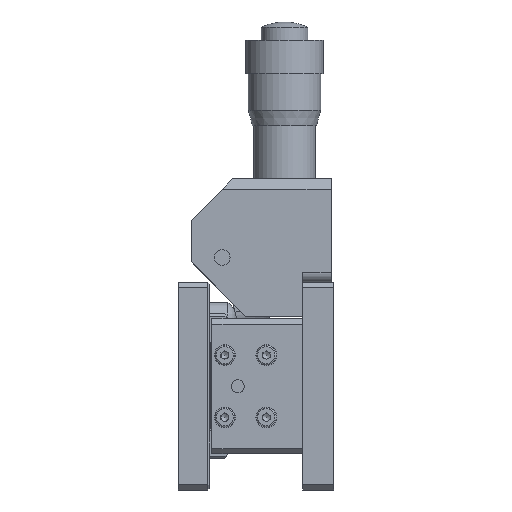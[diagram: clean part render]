
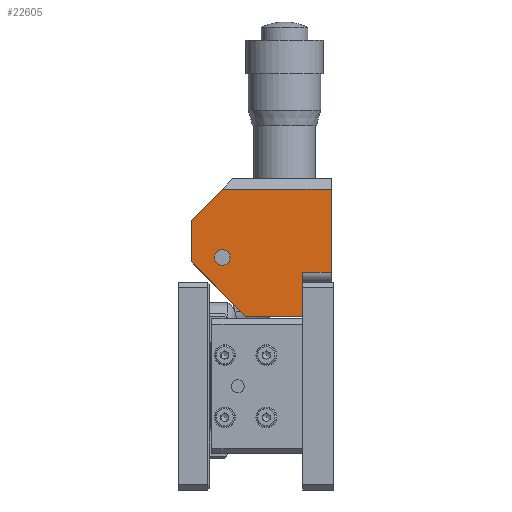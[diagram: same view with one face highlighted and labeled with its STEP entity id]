
A CAD part, left-side view. The second image highlights one B-rep face of the part: STEP entity #22605.
In plain terms, the highlighted planar face has unit normal (-1, 0, 0).
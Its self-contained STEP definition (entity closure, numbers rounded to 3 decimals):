
#106 = AXIS2_PLACEMENT_3D ( 'NONE', #32022, #17404, #11805 ) ;
#154 = LINE ( 'NONE', #21101, #29423 ) ;
#828 = LINE ( 'NONE', #11782, #10894 ) ;
#1643 = CARTESIAN_POINT ( 'NONE',  ( -10., 0.5, 40. ) ) ;
#2236 = EDGE_CURVE ( 'NONE', #18365, #8387, #28190, .T. ) ;
#2362 = AXIS2_PLACEMENT_3D ( 'NONE', #30178, #3823, #24406 ) ;
#3144 = CARTESIAN_POINT ( 'NONE',  ( -10., 6., 22. ) ) ;
#3823 = DIRECTION ( 'NONE',  ( 1., 0., 0. ) ) ;
#4158 = CARTESIAN_POINT ( 'NONE',  ( -10., 6., 20. ) ) ;
#4270 = ORIENTED_EDGE ( 'NONE', *, *, #16886, .F. ) ;
#5706 = LINE ( 'NONE', #29178, #33559 ) ;
#6027 = DIRECTION ( 'NONE',  ( 0., 1., 0. ) ) ;
#6323 = VECTOR ( 'NONE', #19923, 1000. ) ;
#6365 = EDGE_CURVE ( 'NONE', #29981, #8387, #154, .T. ) ;
#7691 = CARTESIAN_POINT ( 'NONE',  ( -10., 17., 13.5 ) ) ;
#8387 = VERTEX_POINT ( 'NONE', #19537 ) ;
#8910 = FACE_BOUND ( 'NONE', #30445, .T. ) ;
#8944 = DIRECTION ( 'NONE',  ( 0., 1., 0. ) ) ;
#10813 = DIRECTION ( 'NONE',  ( 0., 0.707, -0.707 ) ) ;
#10894 = VECTOR ( 'NONE', #6027, 1000. ) ;
#10903 = EDGE_CURVE ( 'NONE', #31700, #36805, #28344, .T. ) ;
#11782 = CARTESIAN_POINT ( 'NONE',  ( -10., 19.5, 38. ) ) ;
#11805 = DIRECTION ( 'NONE',  ( 0., 0., 1. ) ) ;
#12606 = DIRECTION ( 'NONE',  ( 0., 0., 1. ) ) ;
#14959 = VERTEX_POINT ( 'NONE', #34179 ) ;
#15138 = DIRECTION ( 'NONE',  ( 0., -1., 0. ) ) ;
#15540 = CARTESIAN_POINT ( 'NONE',  ( -10., 27.5, 24. ) ) ;
#15616 = DIRECTION ( 'NONE',  ( 0., -0.707, -0.707 ) ) ;
#15724 = VECTOR ( 'NONE', #25114, 1000. ) ;
#15775 = EDGE_CURVE ( 'NONE', #22410, #23237, #26998, .T. ) ;
#16886 = EDGE_CURVE ( 'NONE', #14959, #23237, #5706, .T. ) ;
#17404 = DIRECTION ( 'NONE',  ( -1., 0., 0. ) ) ;
#17431 = VECTOR ( 'NONE', #10813, 1000. ) ;
#17465 = EDGE_LOOP ( 'NONE', ( #24556, #30245, #26623, #31755, #19640, #26450, #31432, #4270 ) ) ;
#18365 = VERTEX_POINT ( 'NONE', #21520 ) ;
#18418 = EDGE_CURVE ( 'NONE', #25161, #25161, #21376, .T. ) ;
#19234 = VECTOR ( 'NONE', #12606, 1000. ) ;
#19537 = CARTESIAN_POINT ( 'NONE',  ( -10., 0.5, 22. ) ) ;
#19640 = ORIENTED_EDGE ( 'NONE', *, *, #10903, .T. ) ;
#19923 = DIRECTION ( 'NONE',  ( 0., 0., 1. ) ) ;
#20484 = LINE ( 'NONE', #32206, #6323 ) ;
#21101 = CARTESIAN_POINT ( 'NONE',  ( -10., 0.5, 22. ) ) ;
#21376 = CIRCLE ( 'NONE', #2362, 1.5 ) ;
#21520 = CARTESIAN_POINT ( 'NONE',  ( -10., 0.5, 38. ) ) ;
#22258 = CARTESIAN_POINT ( 'NONE',  ( -10., 21.5, 23.3 ) ) ;
#22410 = VERTEX_POINT ( 'NONE', #15540 ) ;
#22569 = EDGE_CURVE ( 'NONE', #22410, #36805, #20484, .T. ) ;
#22605 = ADVANCED_FACE ( 'NONE', ( #8910, #37788 ), #35086, .T. ) ;
#23237 = VERTEX_POINT ( 'NONE', #7691 ) ;
#23987 = CARTESIAN_POINT ( 'NONE',  ( -10., 21.5, 38. ) ) ;
#24406 = DIRECTION ( 'NONE',  ( 0., 0., -1. ) ) ;
#24556 = ORIENTED_EDGE ( 'NONE', *, *, #37650, .T. ) ;
#24690 = CARTESIAN_POINT ( 'NONE',  ( -10., 27.5, 32. ) ) ;
#25114 = DIRECTION ( 'NONE',  ( 0., 0., -1. ) ) ;
#25124 = LINE ( 'NONE', #4158, #19234 ) ;
#25161 = VERTEX_POINT ( 'NONE', #22258 ) ;
#26450 = ORIENTED_EDGE ( 'NONE', *, *, #22569, .F. ) ;
#26623 = ORIENTED_EDGE ( 'NONE', *, *, #2236, .F. ) ;
#26998 = LINE ( 'NONE', #29882, #37273 ) ;
#28190 = LINE ( 'NONE', #1643, #15724 ) ;
#28344 = LINE ( 'NONE', #36967, #17431 ) ;
#29178 = CARTESIAN_POINT ( 'NONE',  ( -10., 0.5, 13.5 ) ) ;
#29423 = VECTOR ( 'NONE', #15138, 1000. ) ;
#29882 = CARTESIAN_POINT ( 'NONE',  ( -10., 22., 18.5 ) ) ;
#29950 = EDGE_CURVE ( 'NONE', #18365, #31700, #828, .T. ) ;
#29981 = VERTEX_POINT ( 'NONE', #3144 ) ;
#30178 = CARTESIAN_POINT ( 'NONE',  ( -10., 21.5, 24.8 ) ) ;
#30245 = ORIENTED_EDGE ( 'NONE', *, *, #6365, .T. ) ;
#30445 = EDGE_LOOP ( 'NONE', ( #37119 ) ) ;
#31432 = ORIENTED_EDGE ( 'NONE', *, *, #15775, .T. ) ;
#31700 = VERTEX_POINT ( 'NONE', #23987 ) ;
#31755 = ORIENTED_EDGE ( 'NONE', *, *, #29950, .T. ) ;
#32022 = CARTESIAN_POINT ( 'NONE',  ( -10., 0.5, 40. ) ) ;
#32206 = CARTESIAN_POINT ( 'NONE',  ( -10., 27.5, 40. ) ) ;
#33559 = VECTOR ( 'NONE', #8944, 1000. ) ;
#34179 = CARTESIAN_POINT ( 'NONE',  ( -10., 6., 13.5 ) ) ;
#35086 = PLANE ( 'NONE',  #106 ) ;
#36805 = VERTEX_POINT ( 'NONE', #24690 ) ;
#36967 = CARTESIAN_POINT ( 'NONE',  ( -10., 10., 49.5 ) ) ;
#37119 = ORIENTED_EDGE ( 'NONE', *, *, #18418, .T. ) ;
#37273 = VECTOR ( 'NONE', #15616, 1000. ) ;
#37650 = EDGE_CURVE ( 'NONE', #14959, #29981, #25124, .T. ) ;
#37788 = FACE_OUTER_BOUND ( 'NONE', #17465, .T. ) ;
